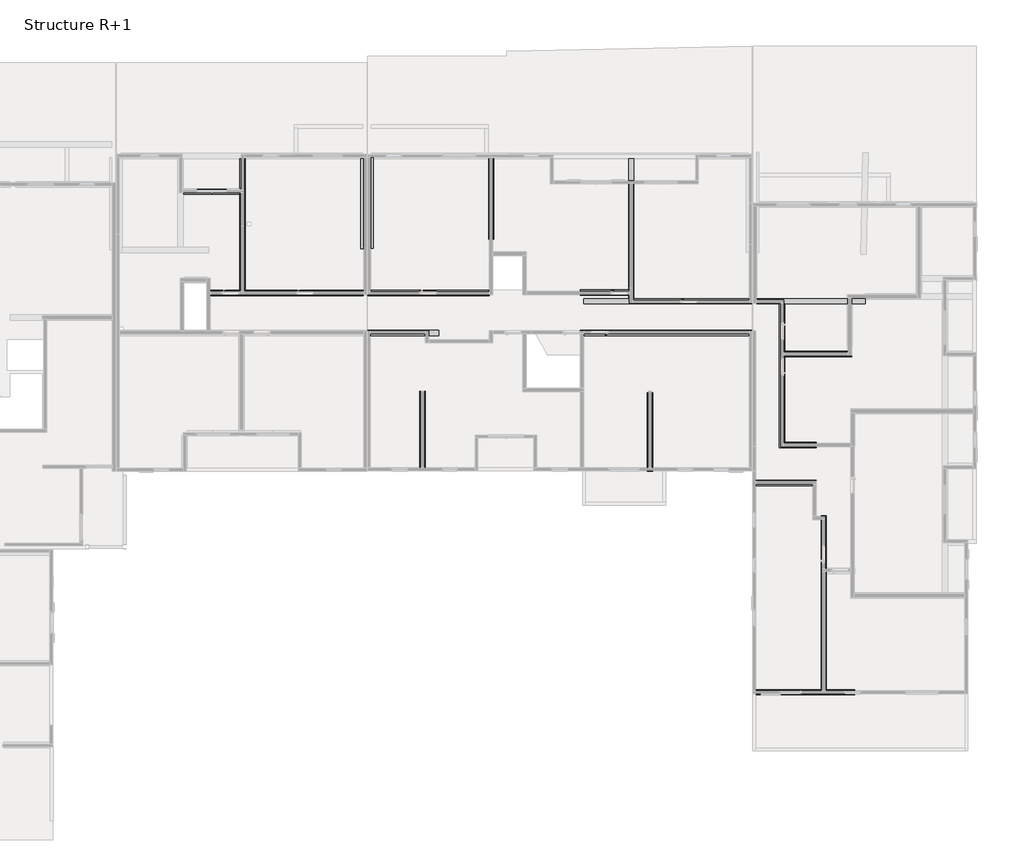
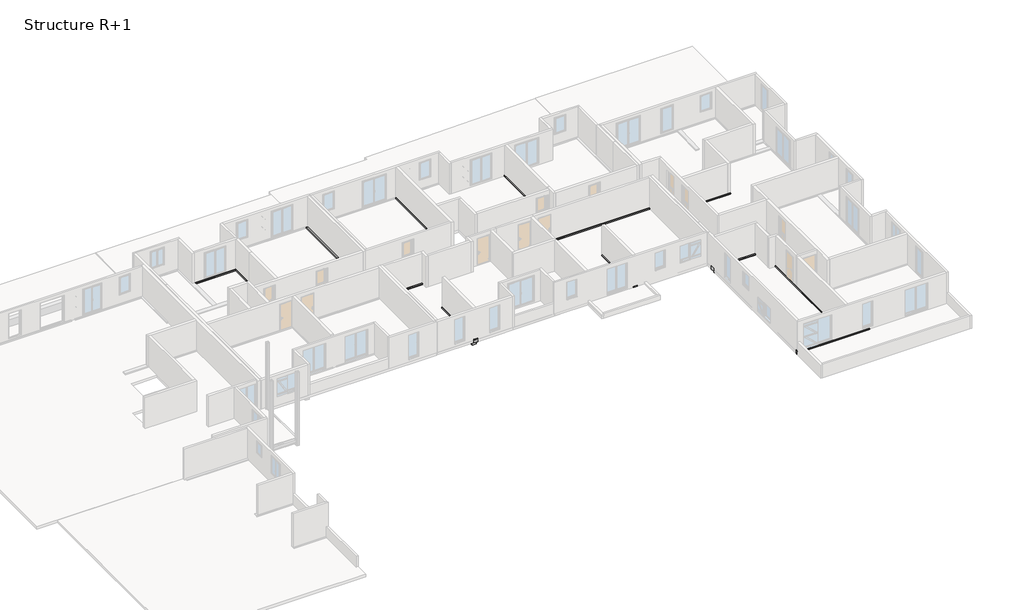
# One storey, part 10 of 11: 21 beams.
"""IFC4 building model written with IfcOpenShell, lengths in millimetres."""

from ifc_helpers import new_model, si_unit, frame, origin, place, context, project, spatial, polyline, outline, extrude, faceted_brep, element, save

model = new_model("IFC4")

# Units and contexts
model_context = context("Model", 3, world=origin())
ifc_project = project(units=[si_unit("LENGTHUNIT", "METRE", prefix="MILLI")], contexts=[model_context])

# Site, building, storey
site = spatial("IfcSite", under=ifc_project)
building = spatial("IfcBuilding", under=site)
storey = spatial("IfcBuildingStorey", under=building, Name="Structure R+1", Elevation=3320.0)

# Beams
placement = place(None, origin())
element("IfcBeam", 1, ObjectType="Poutre rectangulaire - Béton : 300 x 600 mm", at=placement, inside=storey, context=model_context, shape_type="Brep", body=[
    faceted_brep([(37611.0296813, 24522.4972452, 3320.0), (37611.0296813, 24222.4972452, 3320.0), (37611.0296813, 24222.4972452, 3230.0), (37611.0296813, 24522.4972452, 3230.0), (29085.6296813, 24222.4972452, 3320.0), (29085.6296813, 24222.4972452, 3230.0), (31052.3830099, 24522.4972452, 3320.0), (30752.3830099, 24522.4972452, 3320.0), (29085.6296813, 24522.4972452, 3320.0), (29085.6296813, 24522.4972452, 3230.0), (30752.3830099, 24522.4972452, 3230.0), (31052.3830099, 24522.4972452, 3230.0)], [[[0, 1, 2, 3]], [[1, 4, 5, 2]], [[1, 0, 6, 7, 8, 4]], [[3, 2, 5, 9, 10, 11]], [[4, 8, 9, 5]], [[8, 7, 6, 0, 3, 11, 10, 9]]]),
    faceted_brep([(29085.6296813, 24522.4972452, 2720.0), (29085.6296813, 24222.4972452, 2720.0), (29085.6296813, 24222.4972452, 3030.0), (29085.6296813, 24522.4972452, 3030.0), (37611.0296813, 24522.4972452, 2720.0), (37611.0296813, 24222.4972452, 2720.0), (30752.3830099, 24522.4972452, 2720.0), (31052.3830099, 24522.4972452, 2720.0), (30752.3830099, 24522.4972452, 3030.0), (31052.3830099, 24522.4972452, 3030.0), (37611.0296813, 24522.4972452, 3030.0), (37611.0296813, 24222.4972452, 3030.0)], [[[0, 1, 2, 3]], [[4, 5, 1, 0, 6, 7]], [[4, 7, 6, 0, 3, 8, 9, 10]], [[11, 10, 9, 8, 3, 2]], [[5, 4, 10, 11]], [[1, 5, 11, 2]]]),
])
element("IfcBeam", 2, ObjectType="Poutre rectangulaire - Béton : 300 x 600 mm", at=placement, inside=storey, context=model_context, shape_type="Brep", body=[
    faceted_brep([(31052.3830099, 31857.4959984, 3230.0), (31052.3830099, 31857.4959984, 3320.0), (31052.3830099, 24522.4972452, 3320.0), (31052.3830099, 24522.4972452, 3230.0), (30752.3830099, 31857.4959984, 3320.0), (30752.3830099, 30163.6283364, 3320.0), (30752.3830099, 29863.6283364, 3320.0), (30752.3830099, 24522.4972452, 3320.0), (30752.3830099, 31857.4959984, 3230.0), (30752.3830099, 24522.4972452, 3230.0), (30752.3830099, 29863.6283364, 3230.0), (30752.3830099, 30163.6283364, 3230.0)], [[[0, 1, 2, 3]], [[1, 4, 5, 6, 7, 2]], [[8, 0, 3, 9, 10, 11]], [[4, 8, 11, 10, 9, 7, 6, 5]], [[4, 1, 0, 8]], [[3, 2, 7, 9]]]),
    faceted_brep([(30752.3830099, 31857.4959984, 2720.0), (31052.3830099, 31857.4959984, 2720.0), (31052.3830099, 24522.4972452, 2720.0), (30752.3830099, 24522.4972452, 2720.0), (30752.3830099, 29863.6283364, 2720.0), (30752.3830099, 30163.6283364, 2720.0), (30752.3830099, 31857.4959984, 3030.0), (30752.3830099, 24522.4972452, 3030.0), (30752.3830099, 29863.6283364, 3030.0), (30752.3830099, 30163.6283364, 3030.0), (31052.3830099, 31857.4959984, 3030.0), (31052.3830099, 24522.4972452, 3030.0)], [[[0, 1, 2, 3, 4, 5]], [[6, 0, 5, 4, 3, 7, 8, 9]], [[1, 0, 6, 10]], [[10, 6, 9, 8, 7, 11]], [[1, 10, 11, 2]], [[3, 2, 11, 7]]]),
])
element("IfcBeam", 3, ObjectType="Poutre rectangulaire - Béton : 300 x 600 mm", at=placement, inside=storey, context=model_context, shape_type="SweptSolid", body=[
    extrude(outline(polyline([(30752.3830099, 29863.6283364), (27575.1224614, 29863.6283364), (27575.1224614, 30163.6283364), (30752.3830099, 30163.6283364), (30752.3830099, 29863.6283364)])), frame((0.0, 0.0, 3230.0), z_axis=(0.0, 0.0, 1.0), x_axis=(1.0, 0.0, 0.0)), (0.0, 0.0, 1.0), 90.0),
    extrude(outline(polyline([(27575.1224614, 29863.6283364), (27575.1224614, 30163.6283364), (30752.3830099, 30163.6283364), (30752.3830099, 29863.6283364), (27575.1224614, 29863.6283364)])), frame((0.0, 0.0, 2720.0), z_axis=(0.0, 0.0, 1.0), x_axis=(1.0, 0.0, 0.0)), (0.0, 0.0, 1.0), 310.0),
])
element("IfcBeam", 4, ObjectType="Poutre rectangulaire - Béton : 300 x 600 mm", at=placement, inside=storey, context=model_context, shape_type="Brep", body=[
    faceted_brep([(37798.3982717, 26830.2960452, 3320.0), (37498.3982717, 26830.2960452, 3320.0), (37498.3982717, 26830.2960452, 3230.0), (37798.3982717, 26830.2960452, 3230.0), (37498.3982717, 31857.4959984, 3320.0), (37498.3982717, 31857.4959984, 3230.0), (37798.3982717, 31857.4959984, 3320.0), (37648.3832806, 31857.4959984, 3320.0), (37648.3832806, 31857.4959984, 3230.0), (37798.3982717, 31857.4959984, 3230.0)], [[[0, 1, 2, 3]], [[1, 4, 5, 2]], [[1, 0, 6, 7, 4]], [[3, 2, 5, 8, 9]], [[4, 7, 6, 9, 8, 5]], [[6, 0, 3, 9]]]),
    faceted_brep([(37798.3982717, 26830.2960452, 2720.0), (37498.3982717, 26830.2960452, 2720.0), (37498.3982717, 31857.4959984, 2720.0), (37798.3982717, 31857.4959984, 2720.0), (37798.3982717, 31857.4959984, 3030.0), (37798.3982717, 26830.2960452, 3030.0), (37498.3982717, 31857.4959984, 3030.0), (37498.3982717, 26830.2960452, 3030.0)], [[[0, 1, 2, 3]], [[0, 3, 4, 5]], [[3, 2, 6, 4]], [[7, 5, 4, 6]], [[1, 0, 5, 7]], [[2, 1, 7, 6]]]),
])
element("IfcBeam", 5, ObjectType="Poutre rectangulaire - Béton : 300 x 600 mm", at=placement, inside=storey, context=model_context, shape_type="Brep", body=[
    faceted_brep([(37878.7313075, 26865.4385879, 2720.0), (38178.7313075, 26865.4385879, 2720.0), (38178.7313075, 26865.4385879, 3030.0), (37878.7313075, 26865.4385879, 3030.0), (37878.7313075, 32087.4960094, 2720.0), (38078.7313075, 32087.4960094, 2720.0), (38178.7313075, 32087.4960094, 2720.0), (38178.7313075, 31857.4959984, 2720.0), (37878.7313075, 32087.4960094, 3030.0), (38178.7313075, 32087.4960094, 3030.0), (38178.7313075, 31857.4959984, 3030.0)], [[[0, 1, 2, 3]], [[1, 0, 4, 5, 6, 7]], [[4, 0, 3, 8]], [[6, 5, 4, 8, 9]], [[3, 2, 10, 9, 8]], [[1, 7, 6, 9, 10, 2]]]),
    faceted_brep([(38178.7313075, 31927.4960094, 3320.0), (38178.7313075, 31857.4959984, 3320.0), (38178.7313075, 26865.4385879, 3320.0), (38178.7313075, 26865.4385879, 3230.0), (38178.7313075, 31857.4959984, 3230.0), (38178.7313075, 31927.4960094, 3230.0), (38028.7313075, 31927.4960094, 3320.0), (38028.7313075, 26865.4385879, 3320.0), (38028.7313075, 31927.4960094, 3230.0), (38028.7313075, 26865.4385879, 3230.0)], [[[0, 1, 2, 3, 4, 5]], [[2, 1, 0, 6, 7]], [[0, 5, 8, 6]], [[9, 7, 6, 8]], [[3, 9, 8, 5, 4]], [[2, 7, 9, 3]]]),
])
element("IfcBeam", 6, ObjectType="Poutre rectangulaire - Béton : 300 x 600 mm", at=placement, inside=storey, context=model_context, shape_type="SweptSolid", body=[
    extrude(outline(polyline([(44907.2462422, 31857.4959984), (44907.2462422, 27376.5946511), (44857.2462422, 27376.5946511), (44857.2462422, 27389.0932928), (44657.2462422, 27389.0932928), (44657.2462422, 27376.5946511), (44607.2462422, 27376.5946511), (44607.2462422, 31857.4959984), (44907.2462422, 31857.4959984)])), frame((0.0, 0.0, 2720.0), z_axis=(0.0, 0.0, 1.0), x_axis=(1.0, 0.0, 0.0)), (0.0, 0.0, 1.0), 310.0),
    extrude(outline(polyline([(44907.2462422, 31857.4959984), (44907.2462422, 27376.5946511), (44857.3927707, 27376.5946511), (44857.3927707, 31857.4959984), (44907.2462422, 31857.4959984)])), frame((0.0, 0.0, 3230.0), z_axis=(0.0, 0.0, 1.0), x_axis=(1.0, 0.0, 0.0)), (0.0, 0.0, 1.0), 90.0),
    extrude(outline(polyline([(44607.2462422, 27376.5946511), (44607.2462422, 31857.4959984), (44657.3927707, 31857.4959984), (44657.3927707, 27376.5946511), (44607.2462422, 27376.5946511)])), frame((0.0, 0.0, 3230.0), z_axis=(0.0, 0.0, 1.0), x_axis=(1.0, 0.0, 0.0)), (0.0, 0.0, 1.0), 90.0),
])
element("IfcBeam", 7, ObjectType="Poutre rectangulaire - Béton : 300 x 600 mm", at=placement, inside=storey, context=model_context, shape_type="Brep", body=[
    faceted_brep([(49920.3568416, 23762.4942338, 3320.0), (49920.3568416, 24062.4942338, 3320.0), (49920.3568416, 24062.4942338, 3230.0), (49920.3568416, 23762.4942338, 3230.0), (52417.3928747, 24062.4942338, 3320.0), (52467.3928747, 24062.4942338, 3320.0), (52467.3928747, 24062.4942338, 3230.0), (52417.3928747, 24062.4942338, 3230.0), (59292.1504559, 23762.4942338, 3320.0), (59292.1504559, 23787.4942338, 3320.0), (52467.3928747, 23787.4942338, 3320.0), (59292.1504559, 23762.4942338, 3230.0), (59292.1504559, 23787.4942338, 3230.0), (52667.3928747, 23787.4942338, 3230.0), (52467.3928747, 23787.4942338, 3230.0)], [[[0, 1, 2, 3]], [[2, 1, 4, 5, 6, 7]], [[1, 0, 8, 9, 10, 5, 4]], [[9, 8, 11, 12]], [[9, 12, 13, 14, 10]], [[3, 2, 7, 6, 14, 13, 12, 11]], [[8, 0, 3, 11]], [[10, 14, 6, 5]]]),
    faceted_brep([(49924.9149229, 23762.4942338, 2720.0), (49924.9149229, 24062.4942338, 2720.0), (52417.3928747, 24062.4942338, 2720.0), (52717.3928747, 24062.4942338, 2720.0), (55055.0088791, 24062.4942338, 2720.0), (55055.0088791, 23762.4942338, 2720.0), (49924.9149229, 23762.4942338, 3030.0), (55055.0088791, 23762.4942338, 3030.0), (49924.9149229, 24062.4942338, 3030.0), (52417.3928747, 24062.4942338, 3030.0), (52717.3928747, 24062.4942338, 3030.0), (55055.0088791, 24062.4942338, 3030.0)], [[[0, 1, 2, 3, 4, 5]], [[6, 0, 5, 7]], [[1, 8, 9, 10, 11, 4, 3, 2]], [[1, 0, 6, 8]], [[5, 4, 11, 7]], [[8, 6, 7, 11, 10, 9]]]),
    faceted_brep([(59092.1504559, 24062.4942338, 2720.0), (59092.1504559, 24062.4942338, 3030.0), (59092.1504559, 23762.4942338, 3030.0), (59092.1504559, 23762.4942338, 2720.0), (55255.0088791, 24062.4942338, 3030.0), (55255.0088791, 23762.4942338, 3030.0), (55255.0088791, 24062.4942338, 2720.0), (55255.0088791, 23762.4942338, 2720.0)], [[[0, 1, 2, 3]], [[2, 1, 4, 5]], [[6, 7, 5, 4]], [[0, 3, 7, 6]], [[3, 2, 5, 7]], [[1, 0, 6, 4]]]),
    faceted_brep([(59132.9632272, 23967.4942338, 3320.0), (56237.3928747, 23967.4942338, 3320.0), (56207.3928747, 23967.4942338, 3320.0), (55287.3928747, 23967.4942338, 3320.0), (55257.3928747, 23967.4942338, 3320.0), (52667.3928747, 23967.4942338, 3320.0), (52667.3928747, 23967.4942338, 3230.0), (59132.9632272, 23967.4942338, 3230.0), (59132.9632272, 24062.4942338, 3230.0), (59132.9632272, 24062.4942338, 3320.0), (52667.3928747, 24062.4942338, 3320.0), (52667.3928747, 24062.4942338, 3230.0), (52717.3928747, 24062.4942338, 3230.0), (52717.3928747, 24062.4942338, 3320.0)], [[[0, 1, 2, 3, 4, 5, 6, 7]], [[8, 9, 0, 7]], [[10, 11, 6, 5]], [[9, 8, 12, 11, 10, 13]], [[1, 0, 9, 13, 10, 5, 4, 3, 2]], [[7, 6, 11, 12, 8]]]),
])
element("IfcBeam", 8, ObjectType="Poutre rectangulaire - Béton : 300 x 600 mm", at=placement, inside=storey, context=model_context, shape_type="Brep", body=[
    faceted_brep([(52717.3928747, 31857.4959984, 3230.0), (52717.3928747, 31857.4959984, 3320.0), (52717.3928747, 30628.4145164, 3320.0), (52717.3928747, 30628.4145164, 3230.0), (52417.3928747, 31857.4959984, 3320.0), (52417.3928747, 30628.4145164, 3320.0), (52417.3928747, 31857.4959984, 3230.0), (52417.3928747, 30628.4145164, 3230.0)], [[[0, 1, 2, 3]], [[1, 4, 5, 2]], [[4, 1, 0, 6]], [[4, 6, 7, 5]], [[3, 2, 5, 7]], [[6, 0, 3, 7]]]),
    faceted_brep([(52717.3928747, 24062.4942338, 2720.0), (52417.3928747, 24062.4942338, 2720.0), (52417.3928747, 24252.4952381, 2720.0), (52417.3928747, 24552.4952381, 2720.0), (52417.3928747, 31857.4959984, 2720.0), (52717.3928747, 31857.4959984, 2720.0), (52417.3928747, 24062.4942338, 3030.0), (52417.3928747, 24252.4952381, 3030.0), (52417.3928747, 24552.4952381, 3030.0), (52417.3928747, 31857.4959984, 3030.0), (52717.3928747, 24062.4942338, 3030.0), (52717.3928747, 31857.4959984, 3030.0)], [[[0, 1, 2, 3, 4, 5]], [[4, 3, 2, 1, 6, 7, 8, 9]], [[10, 11, 9, 8, 7, 6]], [[0, 5, 11, 10]], [[5, 4, 9, 11]], [[1, 0, 10, 6]]]),
    faceted_brep([(52467.3928747, 24062.4942338, 3320.0), (52417.3928747, 24062.4942338, 3320.0), (52417.3928747, 24062.4942338, 3230.0), (52467.3928747, 24062.4942338, 3230.0), (52417.3928747, 24252.4952381, 3230.0), (52417.3928747, 24272.4952381, 3230.0), (52467.3928747, 24272.4952381, 3230.0), (52467.3928747, 24272.4952381, 3320.0), (52417.3928747, 24272.4952381, 3320.0), (52417.3928747, 24252.4952381, 3320.0)], [[[0, 1, 2, 3]], [[3, 2, 4, 5, 6]], [[7, 6, 5, 8]], [[0, 3, 6, 7]], [[2, 1, 9, 8, 5, 4]], [[1, 0, 7, 8, 9]]]),
    faceted_brep([(52467.3928747, 30468.4145164, 3230.0), (52467.3928747, 30468.4145164, 3320.0), (52467.3928747, 24472.4952381, 3320.0), (52467.3928747, 24472.4952381, 3230.0), (52467.3928747, 24628.4145164, 3230.0), (52417.3928747, 30468.4145164, 3230.0), (52417.3928747, 30468.4145164, 3320.0), (52417.3928747, 24552.4952381, 3320.0), (52417.3928747, 24472.4952381, 3320.0), (52417.3928747, 24552.4952381, 3230.0), (52417.3928747, 24472.4952381, 3230.0)], [[[0, 1, 2, 3, 4]], [[5, 6, 1, 0]], [[1, 6, 7, 8, 2]], [[6, 5, 9, 10, 8, 7]], [[3, 2, 8, 10]], [[5, 0, 4, 3, 10, 9]]]),
    faceted_brep([(52667.3928747, 24062.4942338, 3230.0), (52717.3928747, 24062.4942338, 3230.0), (52717.3928747, 24062.4942338, 3320.0), (52667.3928747, 24062.4942338, 3320.0), (52667.3928747, 24628.4145164, 3230.0), (52667.3928747, 30468.4145164, 3230.0), (52717.3928747, 30468.4145164, 3230.0), (52717.3928747, 30468.4145164, 3320.0), (52667.3928747, 30468.4145164, 3320.0)], [[[0, 1, 2, 3]], [[1, 0, 4, 5, 6]], [[7, 8, 3, 2]], [[6, 7, 2, 1]], [[7, 6, 5, 8]], [[8, 5, 4, 0, 3]]]),
])
element("IfcBeam", 9, ObjectType="Poutre rectangulaire - Béton : 300 x 600 mm", at=placement, inside=storey, context=model_context, shape_type="Brep", body=[
    faceted_brep([(49724.9149229, 24552.4952381, 3230.0), (49724.9149229, 24552.4952381, 3320.0), (52417.3928747, 24552.4952381, 3320.0), (52417.3928747, 24552.4952381, 3230.0), (49724.9149229, 24472.4952381, 3230.0), (49724.9149229, 24472.4952381, 3320.0), (51397.3928747, 24472.4952381, 3320.0), (52417.3928747, 24472.4952381, 3230.0), (52417.3928747, 24472.4952381, 3320.0), (52377.3928747, 24472.4952381, 3320.0), (52347.3928747, 24472.4952381, 3320.0), (51427.3928747, 24472.4952381, 3320.0)], [[[0, 1, 2, 3]], [[1, 0, 4, 5]], [[6, 5, 4, 7, 8, 9, 10, 11]], [[1, 5, 6, 11, 10, 9, 8, 2]], [[4, 0, 3, 7]], [[3, 2, 8, 7]]]),
    faceted_brep([(49924.9149229, 24252.4952381, 2720.0), (49924.9149229, 24552.4952381, 2720.0), (52417.3928747, 24552.4952381, 2720.0), (52417.3928747, 24252.4952381, 2720.0), (49924.9149229, 24252.4952381, 3030.0), (52417.3928747, 24252.4952381, 3030.0), (49924.9149229, 24552.4952381, 3030.0), (52417.3928747, 24552.4952381, 3030.0)], [[[0, 1, 2, 3]], [[4, 0, 3, 5]], [[6, 1, 0, 4]], [[6, 4, 5, 7]], [[1, 6, 7, 2]], [[3, 2, 7, 5]]]),
    faceted_brep([(49724.9149229, 24272.4952381, 3320.0), (49724.9149229, 24252.4952381, 3320.0), (52417.3928747, 24252.4952381, 3320.0), (52417.3928747, 24272.4952381, 3320.0), (52347.3928747, 24272.4952381, 3320.0), (51427.3928747, 24272.4952381, 3320.0), (49724.9149229, 24252.4952381, 3230.0), (49724.9149229, 24272.4952381, 3230.0), (52417.3928747, 24272.4952381, 3230.0), (52417.3928747, 24252.4952381, 3230.0)], [[[0, 1, 2, 3, 4, 5]], [[6, 7, 8, 9]], [[1, 6, 9, 2]], [[0, 5, 4, 3, 8, 7]], [[6, 1, 0, 7]], [[3, 2, 9, 8]]]),
])
element("IfcBeam", 10, ObjectType="Poutre rectangulaire - Béton : 300 x 600 mm", at=placement, inside=storey, context=model_context, shape_type="Brep", body=[
    faceted_brep([(49925.0121044, 22002.4949823, 3320.0), (49925.0121044, 22002.4949823, 3230.0), (59132.9632272, 22002.4949823, 3230.0), (59132.9632272, 22002.4949823, 3320.0), (50325.0121044, 22097.4949823, 3320.0), (49925.0121044, 22097.4949823, 3320.0), (59132.9632272, 22097.4949823, 3320.0), (51305.0121044, 22097.4949823, 3320.0), (51275.0121044, 22097.4949823, 3320.0), (50355.0121044, 22097.4949823, 3320.0), (59132.9632272, 22097.4949823, 3230.0), (49925.0121044, 22097.4949823, 3230.0)], [[[0, 1, 2, 3]], [[4, 5, 0, 3, 6, 7, 8, 9]], [[5, 4, 9, 8, 7, 6, 10, 11]], [[1, 0, 5, 11]], [[3, 2, 10, 6]], [[11, 10, 2, 1]]]),
    faceted_brep([(59092.1504559, 22302.4949823, 2720.0), (59092.1504559, 22002.4949823, 2720.0), (55255.0088791, 22002.4949823, 2720.0), (55255.0088791, 22302.4949823, 2720.0), (59092.1504559, 22302.4949823, 3030.0), (55255.0088791, 22302.4949823, 3030.0), (59092.1504559, 22002.4949823, 3030.0), (55255.0088791, 22002.4949823, 3030.0)], [[[0, 1, 2, 3]], [[4, 0, 3, 5]], [[6, 1, 0, 4]], [[6, 4, 5, 7]], [[1, 6, 7, 2]], [[3, 2, 7, 5]]]),
    faceted_brep([(59292.1504559, 22302.4949823, 3230.0), (59292.1504559, 22302.4949823, 3320.0), (59292.1504559, 22277.4949823, 3320.0), (59292.1504559, 22277.4949823, 3230.0), (49724.9149229, 22277.4949823, 3320.0), (49724.9149229, 22302.4949823, 3320.0), (49724.9149229, 22302.4949823, 3230.0), (49724.9149229, 22277.4949823, 3230.0), (59132.9632272, 22277.4949823, 3230.0)], [[[0, 1, 2, 3]], [[4, 5, 6, 7]], [[4, 7, 8, 3, 2]], [[6, 0, 3, 8, 7]], [[5, 1, 0, 6]], [[1, 5, 4, 2]]]),
    faceted_brep([(49924.9149229, 22002.4949823, 2720.0), (49924.9149229, 22002.4949823, 3030.0), (49924.9149229, 22302.4949823, 3030.0), (49924.9149229, 22302.4949823, 2720.0), (55055.0088791, 22002.4949823, 2720.0), (55055.0088791, 22302.4949823, 2720.0), (55055.0088791, 22302.4949823, 3030.0), (55055.0088791, 22002.4949823, 3030.0)], [[[0, 1, 2, 3]], [[4, 5, 6, 7]], [[0, 3, 5, 4]], [[3, 2, 6, 5]], [[2, 1, 7, 6]], [[1, 0, 4, 7]]]),
])
element("IfcBeam", 11, ObjectType="Poutre rectangulaire - Béton : 300 x 600 mm", at=placement, inside=storey, context=model_context, shape_type="Brep", body=[
    faceted_brep([(44641.4313075, 24222.4972452, 3320.0), (44641.4313075, 24222.4972452, 3230.0), (44641.4313075, 24272.4952381, 3230.0), (44641.4313075, 24272.4952381, 3320.0), (37868.7313075, 24222.4972452, 3320.0), (37868.7313075, 24222.4972452, 3230.0), (37868.7313075, 24272.4952381, 3320.0), (37868.7313075, 24272.4952381, 3230.0), (40774.7127506, 24272.4952381, 3320.0), (41694.7127506, 24272.4952381, 3320.0)], [[[0, 1, 2, 3]], [[0, 4, 5, 1]], [[5, 4, 6, 7]], [[1, 5, 7, 2]], [[3, 2, 7, 6, 8, 9]], [[4, 0, 3, 9, 8, 6]]]),
    faceted_brep([(44641.4313075, 24522.4972452, 2720.0), (44641.4313075, 24222.4972452, 2720.0), (42066.5033212, 24222.4972452, 2720.0), (42066.5033212, 24522.4972452, 2720.0), (44641.4313075, 24222.4972452, 3030.0), (44641.4313075, 24522.4972452, 3030.0), (42066.5033212, 24522.4972452, 3030.0), (42066.5033212, 24222.4972452, 3030.0)], [[[0, 1, 2, 3]], [[4, 5, 6, 7]], [[1, 0, 5, 4]], [[1, 4, 7, 2]], [[3, 2, 7, 6]], [[5, 0, 3, 6]]]),
    faceted_brep([(38068.7313075, 24522.4972452, 2720.0), (38068.7313075, 24522.4972452, 3030.0), (41866.5033212, 24522.4972452, 3030.0), (41866.5033212, 24522.4972452, 2720.0), (38068.7313075, 24222.4972452, 2720.0), (38068.7313075, 24222.4972452, 3030.0), (41866.5033212, 24222.4972452, 2720.0), (41866.5033212, 24222.4972452, 3030.0)], [[[0, 1, 2, 3]], [[4, 5, 1, 0]], [[6, 3, 2, 7]], [[4, 0, 3, 6]], [[1, 5, 7, 2]], [[5, 4, 6, 7]]]),
    faceted_brep([(41724.7127506, 24452.4952381, 3320.0), (44641.4313075, 24452.4952381, 3320.0), (44641.4313075, 24522.4972452, 3320.0), (38028.7313075, 24522.4972452, 3320.0), (38028.7313075, 24452.4952381, 3320.0), (40744.7127506, 24452.4952381, 3320.0), (40774.7127506, 24452.4952381, 3320.0), (41694.7127506, 24452.4952381, 3320.0), (44641.4313075, 24522.4972452, 3230.0), (38028.7313075, 24522.4972452, 3230.0), (44641.4313075, 24452.4952381, 3230.0), (38028.7313075, 24452.4952381, 3230.0)], [[[0, 1, 2, 3, 4, 5, 6, 7]], [[2, 8, 9, 3]], [[10, 1, 0, 7, 6, 5, 4, 11]], [[4, 3, 9, 11]], [[8, 2, 1, 10]], [[8, 10, 11, 9]]]),
])
element("IfcBeam", 12, ObjectType="Poutre rectangulaire - Béton : 300 x 600 mm", at=placement, inside=storey, context=model_context, shape_type="Brep", body=[
    faceted_brep([(41841.4313075, 22302.4949823, 3320.0), (41841.4313075, 22002.4949823, 3320.0), (41841.4313075, 22002.4949823, 3230.0), (41841.4313075, 22302.4949823, 3230.0), (41278.8737638, 22002.4949823, 3320.0), (41278.8737638, 22002.4949823, 3230.0), (37868.7313075, 22302.4949823, 3320.0), (37868.7313075, 22272.4955917, 3320.0), (41278.8737638, 22272.4955917, 3320.0), (37868.7313075, 22302.4949823, 3230.0), (37868.7313075, 22272.4955917, 3230.0), (38027.390788, 22272.4955917, 3230.0), (41078.8737638, 22272.4955917, 3230.0), (41278.8737638, 22272.4955917, 3230.0)], [[[0, 1, 2, 3]], [[2, 1, 4, 5]], [[1, 0, 6, 7, 8, 4]], [[6, 9, 10, 7]], [[6, 0, 3, 9]], [[7, 10, 11, 12, 13, 8]], [[5, 4, 8, 13]], [[3, 2, 5, 13, 12, 11, 10, 9]]]),
    faceted_brep([(41841.4313075, 22302.4949823, 2720.0), (41841.4313075, 22002.4949823, 2720.0), (38068.7313075, 22002.4949823, 2720.0), (38068.7313075, 22302.4949823, 2720.0), (38068.7313075, 22302.4949823, 3030.0), (41841.4313075, 22302.4949823, 3030.0), (38068.7313075, 22002.4949823, 3030.0), (41841.4313075, 22002.4949823, 3030.0)], [[[0, 1, 2, 3]], [[0, 3, 4, 5]], [[2, 6, 4, 3]], [[7, 5, 4, 6]], [[1, 0, 5, 7]], [[2, 1, 7, 6]]]),
    faceted_brep([(41078.8737638, 22002.4949823, 3230.0), (38027.390788, 22002.4949823, 3230.0), (38027.390788, 22092.4955917, 3230.0), (41078.8737638, 22092.4955917, 3230.0), (38027.390788, 22002.4949823, 3320.0), (38027.390788, 22092.4955917, 3320.0), (41078.8737638, 22002.4949823, 3320.0), (41078.8737638, 22092.4955917, 3320.0)], [[[0, 1, 2, 3]], [[1, 4, 5, 2]], [[6, 0, 3, 7]], [[5, 7, 3, 2]], [[0, 6, 4, 1]], [[4, 6, 7, 5]]]),
])
element("IfcBeam", 13, ObjectType="Poutre rectangulaire - Béton : 300 x 600 mm", at=placement, inside=storey, context=model_context, shape_type="Brep", body=[
    faceted_brep([(41077.3913304, 18892.1677314, 3320.0), (41077.3913304, 14617.4952897, 3320.0), (41077.3913304, 14617.4952897, 3230.0), (41077.3913304, 18892.1677314, 3230.0), (41027.3913304, 18892.1677314, 3320.0), (41027.3913304, 14617.4952897, 3320.0), (41027.3913304, 14617.4952897, 3230.0), (41027.3913304, 18892.1677314, 3230.0)], [[[0, 1, 2, 3]], [[1, 0, 4, 5]], [[2, 1, 5, 6]], [[5, 4, 7, 6]], [[0, 3, 7, 4]], [[3, 2, 6, 7]]]),
    faceted_brep([(40777.3913304, 18692.1677314, 2720.0), (41077.3913304, 18692.1677314, 2720.0), (41077.3913304, 14652.6998135, 2720.0), (40777.3913304, 14652.6998135, 2720.0), (40777.3913304, 18692.1677314, 3030.0), (40777.3913304, 14652.6998135, 3030.0), (41077.3913304, 18692.1677314, 3030.0), (41077.3913304, 14652.6998135, 3030.0)], [[[0, 1, 2, 3]], [[4, 0, 3, 5]], [[6, 1, 0, 4]], [[2, 7, 5, 3]], [[7, 6, 4, 5]], [[1, 6, 7, 2]]]),
    faceted_brep([(40777.3913304, 18892.1677314, 3230.0), (40777.3913304, 18892.1677314, 3320.0), (40827.3913304, 18892.1677314, 3320.0), (40827.3913304, 18892.1677314, 3230.0), (40777.3913304, 14617.4952897, 3230.0), (40827.3913304, 14617.4952897, 3230.0), (40777.3913304, 14617.4952897, 3320.0), (40827.3913304, 14617.4952897, 3320.0)], [[[0, 1, 2, 3]], [[4, 0, 3, 5]], [[6, 1, 0, 4]], [[2, 7, 5, 3]], [[1, 6, 7, 2]], [[6, 4, 5, 7]]]),
    faceted_brep([(41077.3913304, 14452.6998135, 3320.0), (40777.3913304, 14452.6998135, 3320.0), (40777.3913304, 14452.6998135, 3030.0), (41077.3913304, 14452.6998135, 3030.0), (40777.3913304, 14457.4952897, 3320.0), (41077.3913304, 14457.4952897, 3320.0), (41077.3913304, 14457.4952897, 3230.0), (41077.3913304, 14457.4952897, 3030.0), (40777.3913304, 14457.4952897, 3030.0), (40777.3913304, 14457.4952897, 3230.0)], [[[0, 1, 2, 3]], [[4, 5, 6, 7, 8, 9]], [[0, 3, 7, 6, 5]], [[2, 1, 4, 9, 8]], [[1, 0, 5, 4]], [[3, 2, 8, 7]]]),
])
element("IfcBeam", 14, ObjectType="Poutre rectangulaire - Béton : 300 x 600 mm", at=placement, inside=storey, context=model_context, shape_type="SweptSolid", body=[
    extrude(outline(polyline([(53460.2396364, 14617.838074), (53460.2396364, 18804.6746113), (53510.2357198, 18804.6746113), (53510.2357198, 14617.838074), (53460.2396364, 14617.838074)])), frame((0.0, 0.0, 3230.0), z_axis=(0.0, 0.0, 1.0), x_axis=(1.0, 0.0, 0.0)), (0.0, 0.0, 1.0), 90.0),
    extrude(outline(polyline([(53460.2396364, 14447.8264154), (53460.2396364, 14457.838074), (53760.2396364, 14457.838074), (53760.2396364, 14447.8264154), (53460.2396364, 14447.8264154)])), frame((0.0, 0.0, 3230.0), z_axis=(0.0, 0.0, 1.0), x_axis=(1.0, 0.0, 0.0)), (0.0, 0.0, 1.0), 90.0),
    extrude(outline(polyline([(53760.2396364, 14647.8264154), (53460.2396364, 14647.8264154), (53460.2396364, 18642.1228071), (53760.2396364, 18642.1228071), (53760.2396364, 14647.8264154)])), frame((0.0, 0.0, 2720.0), z_axis=(0.0, 0.0, 1.0), x_axis=(1.0, 0.0, 0.0)), (0.0, 0.0, 1.0), 310.0),
    extrude(outline(polyline([(53760.2396364, 18804.6746113), (53760.2396364, 14617.838074), (53710.2357198, 14617.838074), (53710.2357198, 18804.6746113), (53760.2396364, 18804.6746113)])), frame((0.0, 0.0, 3230.0), z_axis=(0.0, 0.0, 1.0), x_axis=(1.0, 0.0, 0.0)), (0.0, 0.0, 1.0), 90.0),
])
element("IfcBeam", 15, ObjectType="Poutre rectangulaire - Béton : 300 x 600 mm", at=placement, inside=storey, context=model_context, shape_type="Brep", body=[
    faceted_brep([(59571.9773618, 24062.4942338, 2720.0), (59571.9773618, 23762.4942338, 2720.0), (59571.9773618, 23762.4942338, 3030.0), (59571.9773618, 24062.4942338, 3030.0), (62468.8219312, 23762.4942338, 2720.0), (62468.8219312, 24062.4942338, 2720.0), (62468.8219312, 24062.4942338, 3030.0), (62468.8219312, 23762.4942338, 3030.0), (61122.5915763, 23762.4942338, 2720.0), (60822.5915763, 23762.4942338, 2720.0), (60822.5915763, 23762.4942338, 3030.0), (61122.5915763, 23762.4942338, 3030.0)], [[[0, 1, 2, 3]], [[4, 5, 6, 7]], [[1, 0, 5, 4, 8, 9]], [[0, 3, 6, 5]], [[3, 2, 10, 11, 7, 6]], [[2, 1, 9, 8, 4, 7, 11, 10]]]),
    faceted_brep([(65613.8694348, 23762.4942338, 3230.0), (65613.8694348, 23762.4942338, 3320.0), (64898.1802895, 23762.4942338, 3320.0), (64848.1802895, 23762.4942338, 3320.0), (64848.1802895, 23762.4942338, 3230.0), (64898.1802895, 23762.4942338, 3230.0), (65613.8694348, 24062.4942338, 3320.0), (64898.1802895, 24062.4942338, 3320.0), (64848.1802895, 24062.4942338, 3320.0), (65613.8694348, 24062.4942338, 3230.0), (64848.1802895, 24062.4942338, 3230.0), (64898.1802895, 24062.4942338, 3230.0)], [[[0, 1, 2, 3, 4, 5]], [[1, 6, 7, 8, 3, 2]], [[6, 1, 0, 9]], [[9, 0, 5, 4, 10, 11]], [[6, 9, 11, 10, 8, 7]], [[4, 3, 8, 10]]]),
    faceted_brep([(65413.8694348, 24062.4942338, 2720.0), (65413.8694348, 23762.4942338, 2720.0), (64898.1802895, 23762.4942338, 2720.0), (64598.1802895, 23762.4942338, 2720.0), (62538.8219312, 23762.4942338, 2720.0), (62538.8219312, 24062.4942338, 2720.0), (64598.1802895, 24062.4942338, 2720.0), (64898.1802895, 24062.4942338, 2720.0), (65413.8694348, 24062.4942338, 3030.0), (62538.8219312, 24062.4942338, 3030.0), (64598.1802895, 24062.4942338, 3030.0), (64898.1802895, 24062.4942338, 3030.0), (65413.8694348, 23762.4942338, 3030.0), (62538.8219312, 23762.4942338, 3030.0), (64598.1802895, 23762.4942338, 3030.0), (64898.1802895, 23762.4942338, 3030.0)], [[[0, 1, 2, 3, 4, 5, 6, 7]], [[8, 0, 7, 6, 5, 9, 10, 11]], [[12, 1, 0, 8]], [[12, 8, 11, 10, 9, 13, 14, 15]], [[1, 12, 15, 14, 13, 4, 3, 2]], [[5, 4, 13, 9]]]),
    faceted_brep([(59571.9773618, 23762.4942338, 3230.0), (59571.9773618, 23762.4942338, 3320.0), (59571.9773618, 23787.4942629, 3320.0), (59571.9773618, 23787.4942629, 3230.0), (60899.2327219, 23787.4942629, 3320.0), (60899.2327219, 23787.4942629, 3230.0), (60899.2327219, 23762.4942338, 3320.0), (60899.2327219, 23762.4942338, 3230.0), (60822.5915763, 23762.4942338, 3230.0), (60822.5915763, 23762.4942338, 3320.0)], [[[0, 1, 2, 3]], [[3, 2, 4, 5]], [[6, 7, 5, 4]], [[1, 0, 8, 7, 6, 9]], [[2, 1, 9, 6, 4]], [[0, 3, 5, 7, 8]]]),
    faceted_brep([(64648.1802895, 23762.4942338, 3320.0), (64648.1802895, 23762.4942338, 3230.0), (64648.1802895, 24062.4942338, 3230.0), (64648.1802895, 24062.4942338, 3320.0), (64598.1802895, 23762.4942338, 3320.0), (61122.5915763, 23762.4942338, 3320.0), (61079.2327219, 23762.4942338, 3320.0), (61079.2327219, 23762.4942338, 3230.0), (61122.5915763, 23762.4942338, 3230.0), (64598.1802895, 23762.4942338, 3230.0), (64598.1802895, 24062.4942338, 3320.0), (59571.9773618, 24062.4942338, 3320.0), (59571.9773618, 23987.4942629, 3320.0), (61079.2327219, 23987.4942629, 3320.0), (61079.2327219, 23787.4942629, 3230.0), (61079.2327219, 23987.4942629, 3230.0), (59571.9773618, 23987.4942629, 3230.0), (59571.9773618, 24062.4942338, 3230.0), (64598.1802895, 24062.4942338, 3230.0)], [[[0, 1, 2, 3]], [[1, 0, 4, 5, 6, 7, 8, 9]], [[0, 3, 10, 11, 12, 13, 6, 5, 4]], [[2, 1, 9, 8, 7, 14, 15, 16, 17, 18]], [[17, 11, 10, 3, 2, 18]], [[12, 16, 15, 13]], [[13, 15, 14, 7, 6]], [[11, 17, 16, 12]]]),
])
element("IfcBeam", 16, ObjectType="Poutre rectangulaire - Béton : 300 x 600 mm", at=placement, inside=storey, context=model_context, shape_type="Brep", body=[
    faceted_brep([(60822.5915763, 23762.4942338, 3230.0), (60822.5915763, 15754.7420227, 3230.0), (60822.5915763, 15754.7420227, 3320.0), (60822.5915763, 23762.4942338, 3320.0), (60899.2327219, 23762.4942338, 3320.0), (60899.2327219, 22724.6274913, 3320.0), (60899.2327219, 21804.6274913, 3320.0), (60899.2327219, 20715.8620351, 3320.0), (60899.2327219, 19795.8620351, 3320.0), (60899.2327219, 15804.7366595, 3320.0), (60899.2327219, 15804.7366595, 3230.0), (60899.2327219, 23762.4942338, 3230.0), (61122.5915763, 15754.7420227, 3320.0), (61122.5915763, 15754.7420227, 3230.0), (61122.5915763, 15804.7366595, 3320.0), (61122.5915763, 15804.7366595, 3230.0), (61079.2327219, 15804.7366595, 3230.0)], [[[0, 1, 2, 3]], [[4, 5, 6, 7, 8, 9, 10, 11]], [[12, 2, 1, 13]], [[10, 9, 14, 15, 16]], [[0, 3, 4, 11]], [[12, 13, 15, 14]], [[4, 3, 2, 12, 14, 9, 8, 7, 6, 5]], [[1, 0, 11, 10, 16, 15, 13]]]),
    faceted_brep([(60822.5915763, 23762.4942338, 2720.0), (61122.5915763, 23762.4942338, 2720.0), (61122.5915763, 21416.6652274, 2720.0), (60822.5915763, 21416.6652274, 2720.0), (61122.5915763, 23762.4942338, 3030.0), (61122.5915763, 21416.6652274, 3030.0), (60822.5915763, 23762.4942338, 3030.0), (60822.5915763, 21416.6652274, 3030.0)], [[[0, 1, 2, 3]], [[1, 4, 5, 2]], [[4, 6, 7, 5]], [[6, 0, 3, 7]], [[1, 0, 6, 4]], [[3, 2, 5, 7]]]),
    faceted_brep([(61122.5915763, 23762.4942338, 3320.0), (61079.2327219, 23762.4942338, 3320.0), (61079.2327219, 22754.6274913, 3320.0), (61079.2327219, 22724.6274913, 3320.0), (61079.2327219, 21804.6274913, 3320.0), (61079.2327219, 21774.6274913, 3320.0), (61079.2327219, 21064.6274913, 3320.0), (61122.5915763, 21064.6274913, 3320.0), (61122.5915763, 21114.6274913, 3320.0), (61079.2327219, 23762.4942338, 3230.0), (61122.5915763, 23762.4942338, 3230.0), (61122.5915763, 21114.6274913, 3230.0), (61122.5915763, 21064.6274913, 3230.0), (61079.2327219, 21064.6274913, 3230.0)], [[[0, 1, 2, 3, 4, 5, 6, 7, 8]], [[9, 10, 11, 12, 13]], [[10, 0, 8, 7, 12, 11]], [[0, 10, 9, 1]], [[7, 6, 13, 12]], [[2, 1, 9, 13, 6, 5, 4, 3]]]),
    faceted_brep([(60834.2365758, 16054.7420227, 2720.0), (60834.2365758, 16054.7420227, 3030.0), (60834.2365758, 15754.7420227, 3030.0), (60834.2365758, 15754.7420227, 2720.0), (61122.5915763, 16054.7420227, 2720.0), (61122.5915763, 16054.7420227, 3030.0), (61122.5915763, 21216.6652274, 2720.0), (60822.5915763, 21216.6652274, 2720.0), (60822.5915763, 21216.6652274, 3030.0), (61122.5915763, 21216.6652274, 3030.0), (60822.5915763, 15754.7420227, 2720.0), (61122.5915763, 21114.6274913, 2720.0), (61122.5915763, 20814.6274913, 2720.0), (61122.5915763, 21114.6274913, 3030.0), (61122.5915763, 20814.6274913, 3030.0), (60822.5915763, 15754.7420227, 3030.0)], [[[0, 1, 2, 3]], [[1, 0, 4, 5]], [[6, 7, 8, 9]], [[0, 3, 10, 7, 6, 11, 12, 4]], [[5, 4, 12, 11, 6, 9, 13, 14]], [[2, 1, 5, 14, 13, 9, 8, 15]], [[15, 8, 7, 10]], [[10, 3, 2, 15]]]),
    faceted_brep([(61079.2327219, 20715.8620351, 3320.0), (61079.2327219, 20745.8620351, 3320.0), (61079.2327219, 20864.6274913, 3320.0), (61079.2327219, 20864.6274913, 3230.0), (61079.2327219, 15984.7366595, 3230.0), (61079.2327219, 15984.7366595, 3320.0), (61079.2327219, 19765.8620351, 3320.0), (61079.2327219, 19795.8620351, 3320.0), (61122.5915763, 20864.6274913, 3320.0), (61122.5915763, 20864.6274913, 3230.0), (61122.5915763, 15984.7366595, 3320.0), (61122.5915763, 16054.7420227, 3320.0), (61122.5915763, 20814.6274913, 3320.0), (61122.5915763, 20814.6274913, 3230.0), (61122.5915763, 16054.7420227, 3230.0), (61122.5915763, 15984.7366595, 3230.0)], [[[0, 1, 2, 3, 4, 5, 6, 7]], [[2, 8, 9, 3]], [[1, 0, 7, 6, 5, 10, 11, 12, 8, 2]], [[3, 9, 13, 14, 15, 4]], [[5, 4, 15, 10]], [[9, 8, 12, 11, 10, 15, 14, 13]]]),
])
element("IfcBeam", 17, ObjectType="Poutre rectangulaire - Béton : 300 x 600 mm", at=placement, inside=storey, context=model_context, shape_type="SweptSolid", body=[
    extrude(outline(polyline([(62872.0153589, 15754.7420227), (61122.5915763, 15754.7420227), (61122.5915763, 15804.7366595), (62872.0153589, 15804.7366595), (62872.0153589, 15754.7420227)])), frame((0.0, 0.0, 3230.0), z_axis=(0.0, 0.0, 1.0), x_axis=(1.0, 0.0, 0.0)), (0.0, 0.0, 1.0), 90.0),
    extrude(outline(polyline([(62872.0153589, 16054.7420227), (62872.0153589, 16009.2539559), (62672.0153589, 16009.2539559), (62672.0153589, 15754.7420227), (61134.2365758, 15754.7420227), (61134.2365758, 16054.7420227), (62872.0153589, 16054.7420227)])), frame((0.0, 0.0, 2720.0), z_axis=(0.0, 0.0, 1.0), x_axis=(1.0, 0.0, 0.0)), (0.0, 0.0, 1.0), 310.0),
    extrude(outline(polyline([(61122.5915763, 16054.7420227), (62872.0153589, 16054.7420227), (62872.0153589, 15984.7366595), (61122.5915763, 15984.7366595), (61122.5915763, 16054.7420227)])), frame((0.0, 0.0, 3230.0), z_axis=(0.0, 0.0, 1.0), x_axis=(1.0, 0.0, 0.0)), (0.0, 0.0, 1.0), 90.0),
])
element("IfcBeam", 18, ObjectType="Poutre rectangulaire - Béton : 300 x 600 mm", at=placement, inside=storey, context=model_context, shape_type="SweptSolid", body=[
    extrude(outline(polyline([(64648.1802895, 21114.6274913), (64648.1802895, 21064.6274913), (61122.5915763, 21064.6274913), (61122.5915763, 21114.6274913), (64648.1802895, 21114.6274913)])), frame((0.0, 0.0, 3230.0), z_axis=(0.0, 0.0, 1.0), x_axis=(1.0, 0.0, 0.0)), (0.0, 0.0, 1.0), 90.0),
    extrude(outline(polyline([(61122.5915763, 20814.6274913), (61122.5915763, 21114.6274913), (64812.3933514, 21114.6274913), (64812.3933514, 20814.6274913), (61122.5915763, 20814.6274913)])), frame((0.0, 0.0, 2720.0), z_axis=(0.0, 0.0, 1.0), x_axis=(1.0, 0.0, 0.0)), (0.0, 0.0, 1.0), 310.0),
    extrude(outline(polyline([(64848.1802895, 20864.6274913), (64848.1802895, 20814.6274913), (61122.5915763, 20814.6274913), (61122.5915763, 20864.6274913), (64848.1802895, 20864.6274913)])), frame((0.0, 0.0, 3230.0), z_axis=(0.0, 0.0, 1.0), x_axis=(1.0, 0.0, 0.0)), (0.0, 0.0, 1.0), 90.0),
])
element("IfcBeam", 19, ObjectType="Poutre rectangulaire - Béton : 300 x 600 mm", at=placement, inside=storey, context=model_context, shape_type="SweptSolid", body=[
    extrude(outline(polyline([(59342.9059955, 13619.0889866), (59342.9059955, 13919.0889866), (59352.9059955, 13919.0889866), (59352.9059955, 13619.0889866), (59342.9059955, 13619.0889866)])), frame((0.0, 0.0, 3030.0), z_axis=(0.0, 0.0, 1.0), x_axis=(1.0, 0.0, 0.0)), (0.0, 0.0, 1.0), 290.0),
    extrude(outline(polyline([(62672.0153589, 13919.0889866), (62672.0153589, 13619.0889866), (59542.9059955, 13619.0889866), (59542.9059955, 13919.0889866), (62672.0153589, 13919.0889866)])), frame((0.0, 0.0, 2720.0), z_axis=(0.0, 0.0, 1.0), x_axis=(1.0, 0.0, 0.0)), (0.0, 0.0, 1.0), 310.0),
    extrude(outline(polyline([(62872.0153589, 13919.0889866), (62872.0153589, 13894.0889866), (59512.9059955, 13894.0889866), (59512.9059955, 13919.0889866), (62872.0153589, 13919.0889866)])), frame((0.0, 0.0, 3230.0), z_axis=(0.0, 0.0, 1.0), x_axis=(1.0, 0.0, 0.0)), (0.0, 0.0, 1.0), 90.0),
    extrude(outline(polyline([(62692.5285893, 13714.0889866), (62692.5285893, 13619.0889866), (59512.9059955, 13619.0889866), (59512.9059955, 13714.0889866), (62692.5285893, 13714.0889866)])), frame((0.0, 0.0, 3230.0), z_axis=(0.0, 0.0, 1.0), x_axis=(1.0, 0.0, 0.0)), (0.0, 0.0, 1.0), 90.0),
])
element("IfcBeam", 20, ObjectType="Poutre rectangulaire - Béton : 300 x 600 mm", at=placement, inside=storey, context=model_context, shape_type="Brep", body=[
    faceted_brep([(65012.3933514, 2264.0303718, 3320.0), (65012.3933514, 2264.0303718, 3230.0), (63447.9323598, 2264.0303718, 3230.0), (63397.9323598, 2264.0303718, 3230.0), (63397.9323598, 2264.0303718, 3320.0), (63447.9323598, 2264.0303718, 3320.0), (65012.3933514, 2184.0269927, 3230.0), (65012.3933514, 2184.0269927, 3320.0), (63397.9323598, 2184.0269927, 3320.0), (63397.9323598, 2184.0269927, 3230.0)], [[[0, 1, 2, 3, 4, 5]], [[6, 7, 8, 9]], [[6, 1, 0, 7]], [[1, 6, 9, 3, 2]], [[4, 3, 9, 8]], [[7, 0, 5, 4, 8]]]),
    faceted_brep([(64812.3933514, 2264.0303718, 2720.0), (64812.3933514, 1964.0303718, 2720.0), (59542.9059955, 1964.0303718, 2720.0), (59542.9059955, 2264.0303718, 2720.0), (63147.9323598, 2264.0303718, 2720.0), (63447.9323598, 2264.0303718, 2720.0), (64812.3933514, 1964.0303718, 3030.0), (59542.9059955, 1964.0303718, 3030.0), (64812.3933514, 2264.0303718, 3030.0), (59542.9059955, 2264.0303718, 3030.0), (63447.9323598, 2264.0303718, 3030.0), (63147.9323598, 2264.0303718, 3030.0)], [[[0, 1, 2, 3, 4, 5]], [[1, 6, 7, 2]], [[0, 8, 6, 1]], [[9, 3, 2, 7]], [[8, 10, 11, 9, 7, 6]], [[8, 0, 5, 4, 3, 9, 11, 10]]]),
    faceted_brep([(65012.3933514, 1964.0303718, 3320.0), (65012.3933514, 2024.0269927, 3320.0), (59492.9059955, 2024.0269927, 3320.0), (59492.9059955, 1964.0303718, 3320.0), (65012.3933514, 1964.0303718, 3230.0), (65012.3933514, 2024.0269927, 3230.0), (59492.9059955, 2024.0269927, 3230.0), (59492.9059955, 1964.0303718, 3230.0)], [[[0, 1, 2, 3]], [[1, 0, 4, 5]], [[1, 5, 6, 2]], [[3, 2, 6, 7]], [[4, 7, 6, 5]], [[0, 3, 7, 4]]]),
    faceted_brep([(59342.9059955, 2264.0303718, 3320.0), (59342.9059955, 2264.0303718, 3030.0), (59342.9059955, 2104.0269927, 3030.0), (59342.9059955, 2104.0269927, 3230.0), (59342.9059955, 2024.0269927, 3230.0), (59342.9059955, 2024.0269927, 3320.0), (59352.9059955, 2264.0303718, 3030.0), (59352.9059955, 2264.0303718, 3320.0), (59352.9059955, 2024.0269927, 3320.0), (59352.9059955, 2024.0269927, 3230.0), (59352.9059955, 2104.0269927, 3230.0), (59352.9059955, 2104.0269927, 3030.0)], [[[0, 1, 2, 3, 4, 5]], [[6, 7, 8, 9, 10, 11]], [[3, 2, 11, 10]], [[4, 3, 10, 9]], [[8, 5, 4, 9]], [[1, 0, 7, 6]], [[2, 1, 6, 11]], [[5, 8, 7, 0]]]),
    faceted_brep([(59512.9059955, 2264.0303718, 3230.0), (59512.9059955, 2184.0269927, 3230.0), (59512.9059955, 2184.0269927, 3320.0), (59512.9059955, 2264.0303718, 3320.0), (63197.9323598, 2184.0269927, 3320.0), (63197.9323598, 2264.0303718, 3320.0), (63147.9323598, 2264.0303718, 3320.0), (63197.9323598, 2264.0303718, 3230.0), (63197.9323598, 2184.0269927, 3230.0), (63147.9323598, 2264.0303718, 3230.0)], [[[0, 1, 2, 3]], [[3, 2, 4, 5, 6]], [[7, 5, 4, 8]], [[0, 3, 6, 5, 7, 9]], [[2, 1, 8, 4]], [[1, 0, 9, 7, 8]]]),
])
element("IfcBeam", 21, ObjectType="Poutre rectangulaire - Béton : 300 x 600 mm", at=placement, inside=storey, context=model_context, shape_type="Brep", body=[
    faceted_brep([(63147.9323598, 11949.2539559, 3320.0), (63147.9323598, 11949.2539559, 3230.0), (63147.9323598, 11924.0889515, 3230.0), (63147.9323598, 11924.0889515, 3320.0), (63447.9323598, 11949.2539559, 3320.0), (63377.9329052, 11924.0889515, 3320.0), (63377.9329052, 10254.0889515, 3320.0), (63377.9329052, 9334.0889515, 3320.0), (63377.9329052, 9005.43291, 3320.0), (63447.9323598, 9005.43291, 3320.0), (63447.9323598, 9030.43291, 3320.0), (63447.9323598, 11949.2539559, 3230.0), (63377.9329052, 11924.0889515, 3230.0), (63377.9329052, 9005.43291, 3230.0), (63447.9323598, 9005.43291, 3230.0), (63447.9323598, 9030.43291, 3230.0), (63377.9329052, 11744.0889515, 3230.0)], [[[0, 1, 2, 3]], [[4, 0, 3, 5, 6, 7, 8, 9, 10]], [[0, 4, 11, 1]], [[3, 2, 12, 5]], [[9, 8, 13, 14]], [[1, 11, 15, 14, 13, 16, 12, 2]], [[11, 4, 10, 9, 14, 15]], [[8, 7, 6, 5, 12, 16, 13]]]),
    faceted_brep([(63147.9323598, 11749.2539559, 2720.0), (63447.9323598, 11749.2539559, 2720.0), (63447.9323598, 9030.43291, 2720.0), (63447.9323598, 8730.43291, 2720.0), (63447.9323598, 2264.0303718, 2720.0), (63147.9323598, 2264.0303718, 2720.0), (63447.9323598, 11749.2539559, 3030.0), (63447.9323598, 9030.43291, 3030.0), (63447.9323598, 8730.43291, 3030.0), (63447.9323598, 2264.0303718, 3030.0), (63147.9323598, 11749.2539559, 3030.0), (63147.9323598, 2264.0303718, 3030.0)], [[[0, 1, 2, 3, 4, 5]], [[1, 6, 7, 8, 9, 4, 3, 2]], [[0, 10, 6, 1]], [[10, 11, 9, 8, 7, 6]], [[10, 0, 5, 11]], [[5, 4, 9, 11]]]),
    faceted_brep([(63147.9323598, 2264.0303718, 3320.0), (63147.9323598, 2264.0303718, 3230.0), (63197.9323598, 2264.0303718, 3230.0), (63197.9323598, 2264.0303718, 3320.0), (63147.9323598, 11744.0889515, 3230.0), (63197.9329052, 11744.0889515, 3230.0), (63197.9327476, 9005.43291, 3230.0), (63197.9327373, 8825.43291, 3230.0), (63147.9323598, 11744.0889515, 3320.0), (63197.9329052, 11744.0889515, 3320.0), (63197.9327648, 9304.0889515, 3320.0), (63197.9328212, 10284.0889515, 3320.0)], [[[0, 1, 2, 3]], [[1, 4, 5, 6, 7, 2]], [[4, 8, 9, 5]], [[8, 4, 1, 0]], [[8, 0, 3, 10, 11, 9]], [[5, 9, 11, 10, 3, 2, 7, 6]]]),
    faceted_brep([(63447.9323598, 2264.0303718, 3230.0), (63447.9323598, 8730.43291, 3230.0), (63447.9323598, 8825.43291, 3230.0), (63447.9323598, 8825.43291, 3320.0), (63447.9323598, 8730.43291, 3320.0), (63447.9323598, 2264.0303718, 3320.0), (63397.9323598, 8825.43291, 3230.0), (63397.9323598, 8825.43291, 3320.0), (63397.9323598, 2264.0303718, 3320.0), (63397.9323598, 2264.0303718, 3230.0)], [[[0, 1, 2, 3, 4, 5]], [[3, 2, 6, 7]], [[5, 4, 3, 7, 8]], [[9, 8, 7, 6]], [[2, 1, 0, 9, 6]], [[0, 5, 8, 9]]]),
])

save(model, "model.ifc")
